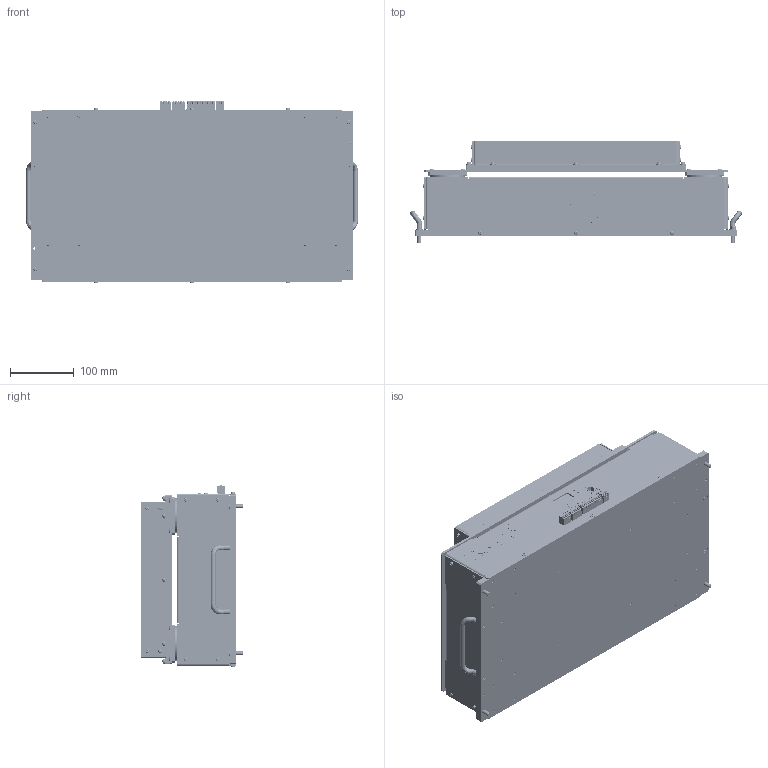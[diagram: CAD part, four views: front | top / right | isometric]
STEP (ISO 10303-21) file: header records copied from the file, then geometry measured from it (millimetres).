
FILE_DESCRIPTION (( 'STEP AP214' ), '1' );
FILE_NAME ('3-124-000090,柔性振散盘,标准,QFF-3224,300盘面,网口版,包装成品.STEP', '2025-07-18T02:58:43', ( '' ), ( '' ), 'SwSTEP 2.0', 'SolidWorks 2017', '' );
FILE_SCHEMA (( 'AUTOMOTIVE_DESIGN' ));
Length unit declared in the file: millimetre
Products named in the file (1): 3-124-000090,柔性振散盘,标准,QFF-3224,300盘面,网口版,包装成品
Bounding box: 519.3 x 159.9 x 285.85 mm (x, y, z)
Volume: 3384082 mm3; surface area: 1641310.6 mm2
Topology: 289 solids, 289 shells, 13240 faces, 33467 edges, 21822 vertices
Faces by surface type: plane 8417, bspline 2129, cylinder 1965, cone 453, torus 276
Entity records: 597917 total; most frequent: CARTESIAN_POINT 141090, ORIENTED_EDGE 66746, DIRECTION 56147, EDGE_CURVE 33373, VECTOR 23621, LINE 23621, VERTEX_POINT 21822, AXIS2_PLACEMENT_3D 16263
